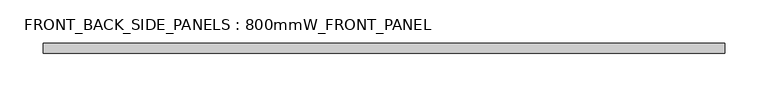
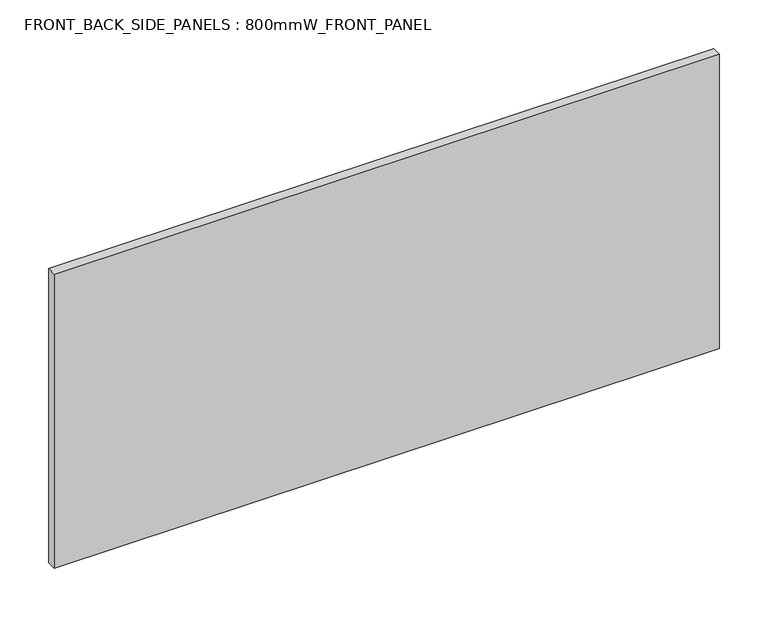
"""IFC4 building model written with IfcOpenShell, lengths in millimetres: furniture geometry, FRONT_BACK_SIDE_PANELS : 800mmW_FRONT_PANEL."""

from ifc_helpers import new_model, si_unit, frame, origin, place, context, project, spatial, polyline, outline, extrude, source, transform, mapped, element, save


def front_back_side_panels_800mmw_front_panel_6449e22e(model_context):
    return source(origin(), model_context, "Body", "SweptSolid", [
        extrude(outline(polyline([(395.4939356, -210.7282814), (395.4939356, -222.7282814), (-395.4939356, -222.7282814), (-395.4939356, -210.7282814), (395.4939356, -210.7282814)])), frame((0.0, 0.0, 808.0), z_axis=(0.0, 0.0, 1.0), x_axis=(1.0, 0.0, 0.0)), (0.0, 0.0, 1.0), 370.0),
    ])


if __name__ == "__main__":
    model = new_model("IFC4")
    model_context = context("Model", 3, world=origin())
    ifc_project = project(units=[si_unit("LENGTHUNIT", "METRE", prefix="MILLI")], contexts=[model_context])
    site = spatial("IfcSite", under=ifc_project)
    building = spatial("IfcBuilding", under=site)
    placement = place(None, origin())
    front_back_side_panels_800mmw_front_panel_shape = front_back_side_panels_800mmw_front_panel_6449e22e(model_context)
    element("IfcFurniture", 1, ObjectType="FRONT_BACK_SIDE_PANELS : 800mmW_FRONT_PANEL", at=placement, inside=building, context=model_context, shape_type="MappedRepresentation", body=[
        mapped(front_back_side_panels_800mmw_front_panel_shape, transform((0.0, 0.0, 0.0), x_axis=(1.0, 0.0, 0.0), y_axis=(0.0, 1.0, 0.0), z_axis=(0.0, 0.0, 1.0))),
    ])
    save(model, "model.ifc")
